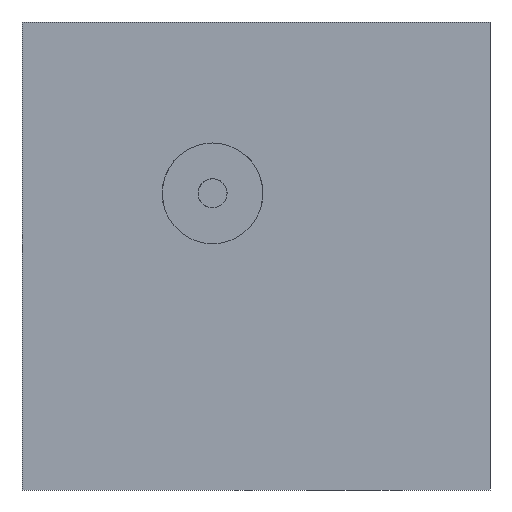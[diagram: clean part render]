
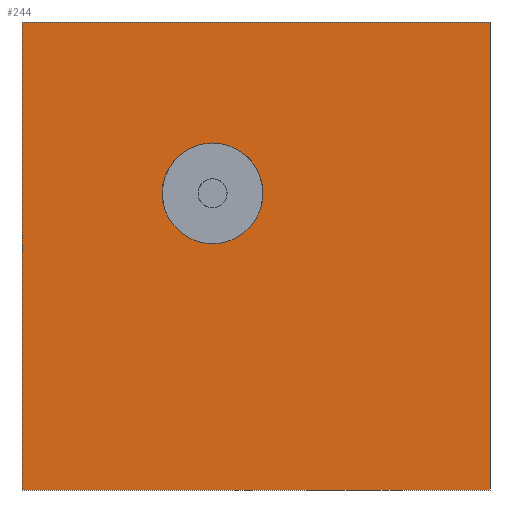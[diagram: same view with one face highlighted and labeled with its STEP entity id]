
A CAD part, front view. The second image highlights one B-rep face of the part: STEP entity #244.
In plain terms, the highlighted planar face has unit normal (0, -1, 0).
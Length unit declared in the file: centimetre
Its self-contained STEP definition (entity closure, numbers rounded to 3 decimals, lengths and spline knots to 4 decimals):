
#5 = ORIENTED_EDGE ( 'NONE', *, *, #294, .F. ) ;
#19 = ORIENTED_EDGE ( 'NONE', *, *, #599, .T. ) ;
#26 = DIRECTION ( 'NONE',  ( 0., 0., -1. ) ) ;
#34 = ORIENTED_EDGE ( 'NONE', *, *, #110, .F. ) ;
#90 = VERTEX_POINT ( 'NONE', #228 ) ;
#110 = EDGE_CURVE ( 'NONE', #1168, #90, #986, .T. ) ;
#119 = EDGE_CURVE ( 'NONE', #494, #1168, #414, .T. ) ;
#123 = EDGE_LOOP ( 'NONE', ( #1181, #34, #375, #19 ) ) ;
#137 = DIRECTION ( 'NONE',  ( 1., 0., 0. ) ) ;
#182 = DIRECTION ( 'NONE',  ( 0., 0., 1. ) ) ;
#203 = AXIS2_PLACEMENT_3D ( 'NONE', #663, #1053, #182 ) ;
#228 = CARTESIAN_POINT ( 'NONE',  ( 1000., 0., 0. ) ) ;
#234 = CARTESIAN_POINT ( 'NONE',  ( 407.1695, 0., 633.8729 ) ) ;
#244 = ADVANCED_FACE ( 'NONE', ( #1129, #762 ), #276, .F. ) ;
#246 = DIRECTION ( 'NONE',  ( 0., -1., 0. ) ) ;
#276 = PLANE ( 'NONE',  #203 ) ;
#291 = CARTESIAN_POINT ( 'NONE',  ( 407.1695, 0., 741.5001 ) ) ;
#294 = EDGE_CURVE ( 'NONE', #943, #838, #304, .T. ) ;
#304 = CIRCLE ( 'NONE', #1217, 107.6272 ) ;
#305 = VECTOR ( 'NONE', #961, 100. ) ;
#325 = CARTESIAN_POINT ( 'NONE',  ( 407.1695, 0., 526.2457 ) ) ;
#375 = ORIENTED_EDGE ( 'NONE', *, *, #119, .F. ) ;
#401 = DIRECTION ( 'NONE',  ( 0., 0., -1. ) ) ;
#414 = LINE ( 'NONE', #803, #1076 ) ;
#494 = VERTEX_POINT ( 'NONE', #1030 ) ;
#499 = CARTESIAN_POINT ( 'NONE',  ( 1000., 0., 1000. ) ) ;
#505 = CARTESIAN_POINT ( 'NONE',  ( 1000., 0., 1000. ) ) ;
#508 = LINE ( 'NONE', #1002, #834 ) ;
#524 = DIRECTION ( 'NONE',  ( 0., 0., -1. ) ) ;
#544 = LINE ( 'NONE', #1132, #305 ) ;
#582 = EDGE_CURVE ( 'NONE', #838, #943, #1037, .T. ) ;
#586 = DIRECTION ( 'NONE',  ( 0., -1., 0. ) ) ;
#599 = EDGE_CURVE ( 'NONE', #494, #854, #544, .T. ) ;
#663 = CARTESIAN_POINT ( 'NONE',  ( 0., 0., 1000. ) ) ;
#675 = EDGE_LOOP ( 'NONE', ( #5, #978 ) ) ;
#762 = FACE_OUTER_BOUND ( 'NONE', #123, .T. ) ;
#770 = DIRECTION ( 'NONE',  ( 1., 0., 0. ) ) ;
#803 = CARTESIAN_POINT ( 'NONE',  ( 0., 0., 1000. ) ) ;
#834 = VECTOR ( 'NONE', #137, 100. ) ;
#838 = VERTEX_POINT ( 'NONE', #291 ) ;
#848 = AXIS2_PLACEMENT_3D ( 'NONE', #234, #246, #524 ) ;
#854 = VERTEX_POINT ( 'NONE', #988 ) ;
#889 = CARTESIAN_POINT ( 'NONE',  ( 407.1695, 0., 633.8729 ) ) ;
#896 = VECTOR ( 'NONE', #26, 100. ) ;
#908 = EDGE_CURVE ( 'NONE', #854, #90, #508, .T. ) ;
#943 = VERTEX_POINT ( 'NONE', #325 ) ;
#961 = DIRECTION ( 'NONE',  ( 0., 0., -1. ) ) ;
#978 = ORIENTED_EDGE ( 'NONE', *, *, #582, .F. ) ;
#986 = LINE ( 'NONE', #499, #896 ) ;
#988 = CARTESIAN_POINT ( 'NONE',  ( 0., 0., 0. ) ) ;
#1002 = CARTESIAN_POINT ( 'NONE',  ( 0., 0., 0. ) ) ;
#1030 = CARTESIAN_POINT ( 'NONE',  ( 0., 0., 1000. ) ) ;
#1037 = CIRCLE ( 'NONE', #848, 107.6272 ) ;
#1053 = DIRECTION ( 'NONE',  ( 0., 1., 0. ) ) ;
#1076 = VECTOR ( 'NONE', #770, 100. ) ;
#1129 = FACE_BOUND ( 'NONE', #675, .T. ) ;
#1132 = CARTESIAN_POINT ( 'NONE',  ( 0., 0., 1000. ) ) ;
#1168 = VERTEX_POINT ( 'NONE', #505 ) ;
#1181 = ORIENTED_EDGE ( 'NONE', *, *, #908, .T. ) ;
#1217 = AXIS2_PLACEMENT_3D ( 'NONE', #889, #586, #401 ) ;
